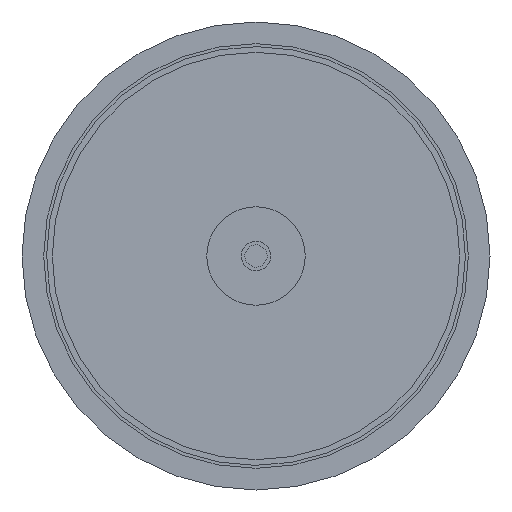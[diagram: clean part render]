
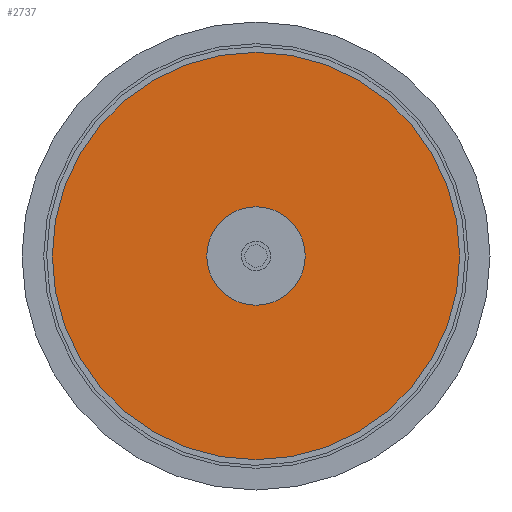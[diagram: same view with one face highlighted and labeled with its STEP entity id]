
A CAD part, front view. The second image highlights one B-rep face of the part: STEP entity #2737.
In plain terms, the highlighted planar face has unit normal (0, -1, 0).
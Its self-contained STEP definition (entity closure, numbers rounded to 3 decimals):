
#278 = CARTESIAN_POINT ( 'NONE',  ( 0., 0., 0. ) ) ;
#343 = DIRECTION ( 'NONE',  ( 0., 0., 1. ) ) ;
#436 = CARTESIAN_POINT ( 'NONE',  ( 0., 0., 0. ) ) ;
#515 = EDGE_CURVE ( 'NONE', #5732, #5762, #6667, .T. ) ;
#1053 = CIRCLE ( 'NONE', #2781, 85. ) ;
#1120 = PLANE ( 'NONE',  #4663 ) ;
#1507 = CARTESIAN_POINT ( 'NONE',  ( 0., 0., 0. ) ) ;
#1572 = AXIS2_PLACEMENT_3D ( 'NONE', #5998, #2594, #343 ) ;
#1721 = DIRECTION ( 'NONE',  ( 0., 1., 0. ) ) ;
#1760 = ORIENTED_EDGE ( 'NONE', *, *, #4668, .F. ) ;
#1887 = AXIS2_PLACEMENT_3D ( 'NONE', #1507, #2016, #5459 ) ;
#2016 = DIRECTION ( 'NONE',  ( 0., 1., 0. ) ) ;
#2296 = ORIENTED_EDGE ( 'NONE', *, *, #4019, .T. ) ;
#2594 = DIRECTION ( 'NONE',  ( 0., 1., 0. ) ) ;
#2737 = ADVANCED_FACE ( 'NONE', ( #3232, #3761 ), #1120, .F. ) ;
#2781 = AXIS2_PLACEMENT_3D ( 'NONE', #436, #4349, #7231 ) ;
#2888 = EDGE_LOOP ( 'NONE', ( #1760, #3674 ) ) ;
#3019 = CIRCLE ( 'NONE', #1887, 85. ) ;
#3174 = AXIS2_PLACEMENT_3D ( 'NONE', #278, #6518, #4854 ) ;
#3232 = FACE_OUTER_BOUND ( 'NONE', #2888, .T. ) ;
#3674 = ORIENTED_EDGE ( 'NONE', *, *, #6703, .F. ) ;
#3761 = FACE_BOUND ( 'NONE', #4417, .T. ) ;
#3937 = VERTEX_POINT ( 'NONE', #4143 ) ;
#4019 = EDGE_CURVE ( 'NONE', #5762, #5732, #5314, .T. ) ;
#4143 = CARTESIAN_POINT ( 'NONE',  ( 0., 0., 85. ) ) ;
#4349 = DIRECTION ( 'NONE',  ( 0., 1., 0. ) ) ;
#4417 = EDGE_LOOP ( 'NONE', ( #5580, #2296 ) ) ;
#4419 = CARTESIAN_POINT ( 'NONE',  ( 0., 0., -5.25 ) ) ;
#4532 = VERTEX_POINT ( 'NONE', #6254 ) ;
#4663 = AXIS2_PLACEMENT_3D ( 'NONE', #5086, #1721, #5672 ) ;
#4668 = EDGE_CURVE ( 'NONE', #4532, #3937, #3019, .T. ) ;
#4854 = DIRECTION ( 'NONE',  ( 0., 0., 1. ) ) ;
#5086 = CARTESIAN_POINT ( 'NONE',  ( 0., 0., 0. ) ) ;
#5110 = CARTESIAN_POINT ( 'NONE',  ( 0., 0., 5.25 ) ) ;
#5314 = CIRCLE ( 'NONE', #3174, 5.25 ) ;
#5459 = DIRECTION ( 'NONE',  ( 0., 0., 1. ) ) ;
#5580 = ORIENTED_EDGE ( 'NONE', *, *, #515, .T. ) ;
#5672 = DIRECTION ( 'NONE',  ( 0., 0., 1. ) ) ;
#5732 = VERTEX_POINT ( 'NONE', #4419 ) ;
#5762 = VERTEX_POINT ( 'NONE', #5110 ) ;
#5998 = CARTESIAN_POINT ( 'NONE',  ( 0., 0., 0. ) ) ;
#6254 = CARTESIAN_POINT ( 'NONE',  ( 0., 0., -85. ) ) ;
#6518 = DIRECTION ( 'NONE',  ( 0., 1., 0. ) ) ;
#6667 = CIRCLE ( 'NONE', #1572, 5.25 ) ;
#6703 = EDGE_CURVE ( 'NONE', #3937, #4532, #1053, .T. ) ;
#7231 = DIRECTION ( 'NONE',  ( 0., 0., 1. ) ) ;
